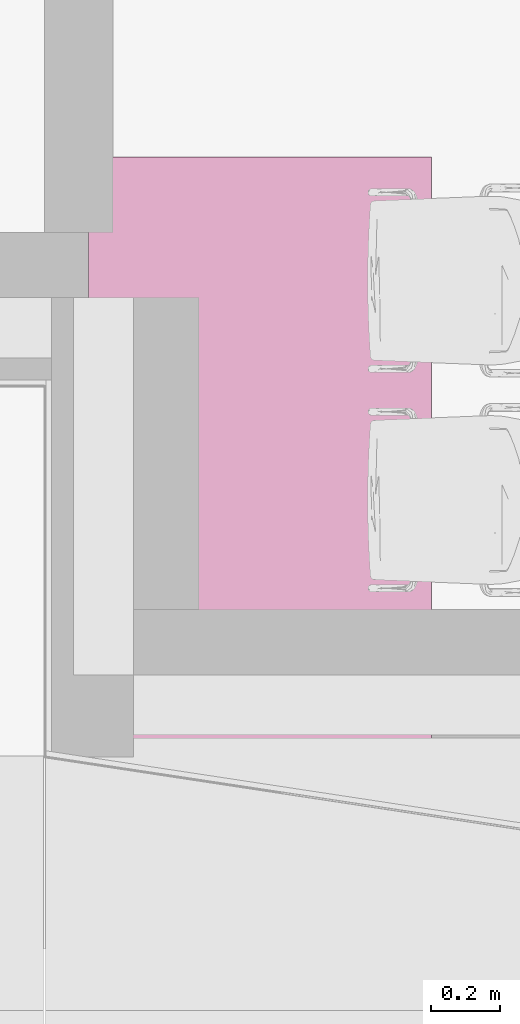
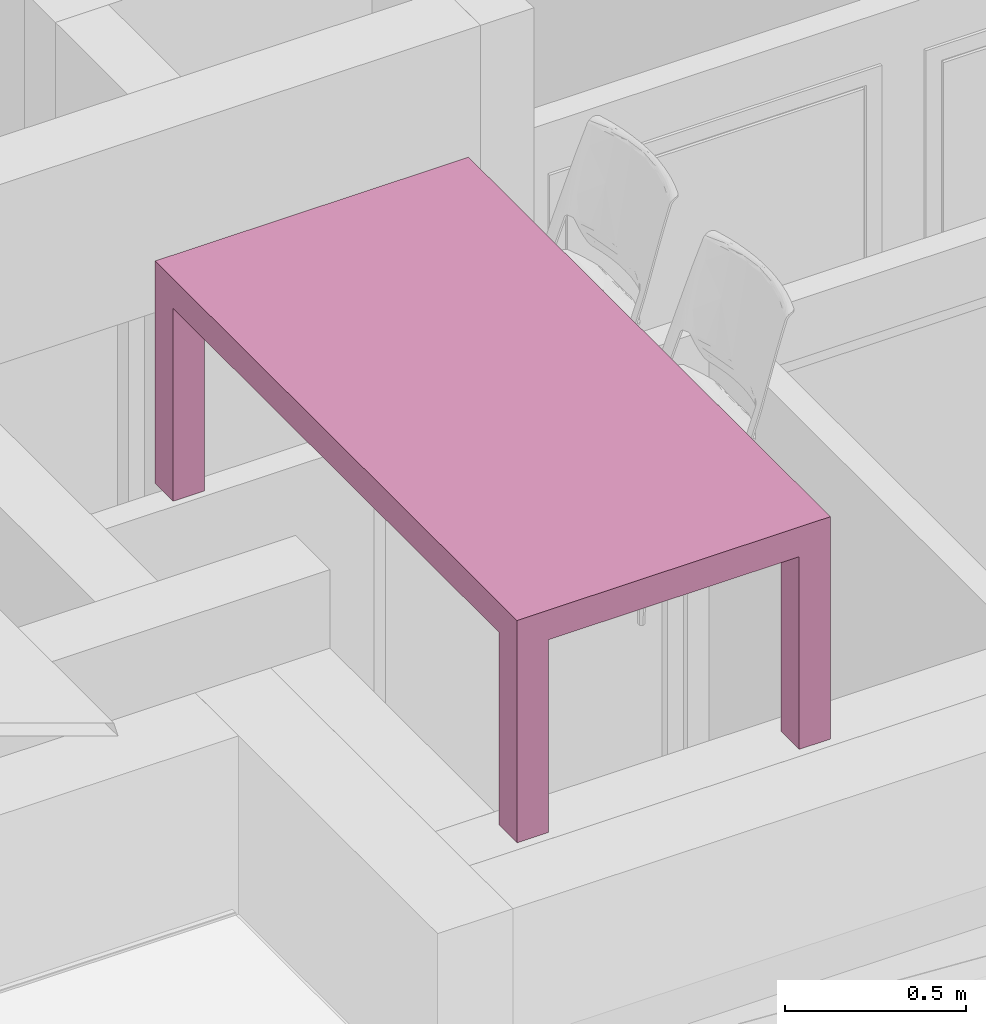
# One storey, part 15 of 55: 1 furnishing.
"""IFC2X3 building model written with IfcOpenShell, lengths in millimetres."""

from ifc_helpers import new_model, entity, si_unit, converted_unit, direction, frame, origin, place, context, subcontext, project, spatial, faceted_brep, source, transform, mapped, material, type_object, type_shapes, element, save


model = new_model("IFC2X3")

# Units and contexts
model_context = context("Model", 3, precision=0.01, world=origin(), true_north=direction((6.123233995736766e-17, 1.0)))
plan_context = context("Plan", 3, precision=0.01, world=origin(), true_north=direction((6.123233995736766e-17, 1.0)))
body_context = subcontext(model_context, "Body", "Model", "MODEL_VIEW")
ifc_project = project(units=[si_unit("LENGTHUNIT", "METRE", prefix="MILLI"), converted_unit("PLANEANGLEUNIT", "DEGREE", entity("IfcPlaneAngleMeasure", 0.017453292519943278), si_unit("PLANEANGLEUNIT", "RADIAN"), dimensions=[0, 0, 0, 0, 0, 0, 0]), si_unit("AREAUNIT", "SQUARE_METRE")], contexts=[model_context, plan_context])

# Site, building, storey, space
site_placement = place(None, origin())
site = spatial("IfcSite", under=ifc_project, at=site_placement, Name="Default", CompositionType="ELEMENT")
building_placement = place(site_placement, origin())
building = spatial("IfcBuilding", under=site, at=building_placement, CompositionType="ELEMENT")
storey_placement = place(building_placement, origin())
storey = spatial("IfcBuildingStorey", under=building, at=storey_placement, Name="1K", CompositionType="ELEMENT", Elevation=0.0)
space_placement = place(storey_placement, origin())
space = spatial("IfcSpace", under=storey, at=space_placement, Name="1-0.17", CompositionType="ELEMENT", InteriorOrExteriorSpace="INTERNAL")

# Furnishing
ifc_material = material(Name="<Unnamed>")
furniture_type = type_object("IfcFurnitureType", Name="HR_Furniture_Table_Generic_v2016-02-11:2000x1000", AssemblyPlace="NOTDEFINED", material=ifc_material)
shared_shape = source(origin(), body_context, "Body", "Brep", [
    faceted_brep([(-500.0, -900.0, 0.0), (-400.0, -900.0, 0.0), (-400.0, -1000.0, 0.0), (-500.0, -1000.0, 0.0), (-400.0, 1000.0, 0.0), (-500.0, 1000.0, 0.0), (-500.0, 1000.0, 750.0), (500.0, 1000.0, 750.0), (500.0, 1000.0, 0.0), (400.0, 1000.0, 0.0), (400.0, 1000.0, 650.0), (-400.0, 1000.0, 650.0), (-500.0, 900.0, 0.0), (-500.0, 900.0, 650.0), (-500.0, -900.0, 650.0), (-500.0, -1000.0, 750.0), (-400.0, 900.0, 0.0), (-400.0, 900.0, 650.0), (400.0, 900.0, 0.0), (400.0, 900.0, 650.0), (500.0, 900.0, 0.0), (500.0, 900.0, 650.0), (500.0, -1000.0, 750.0), (500.0, -1000.0, 0.0), (500.0, -900.0, 0.0), (500.0, -900.0, 650.0), (400.0, -900.0, 0.0), (400.0, -900.0, 650.0), (400.0, -1000.0, 0.0), (400.0, -1000.0, 650.0), (-400.0, -1000.0, 650.0), (-400.0, -900.0, 650.0)], [[[0, 1, 2, 3]], [[4, 5, 6, 7, 8, 9, 10, 11]], [[6, 5, 12, 13, 14, 0, 3, 15]], [[12, 16, 17, 13]], [[16, 4, 11, 17]], [[9, 18, 19, 10]], [[18, 20, 21, 19]], [[20, 8, 7, 22, 23, 24, 25, 21]], [[24, 26, 27, 25]], [[26, 28, 29, 27]], [[28, 23, 22, 15, 3, 2, 30, 29]], [[2, 1, 31, 30]], [[1, 0, 14, 31]], [[7, 6, 15, 22]], [[11, 10, 19, 21, 25, 27, 29, 30, 31, 14, 13, 17]], [[4, 16, 12, 5]], [[8, 20, 18, 9]], [[24, 23, 28, 26]]]),
])
type_shapes(furniture_type, [shared_shape])
furnishing_placement = place(space_placement, frame((7718.545584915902, 1120.0, 3125.0)))
element("IfcFurnishingElement", 1, at=furnishing_placement, inside=space, type_object=furniture_type, material=ifc_material, Name="HR_Furniture_Table_Generic_v2016-02-11:2000x1000", ObjectType="HR_Furniture_Table_Generic_v2016-02-11:2000x1000", context=body_context, shape_type="MappedRepresentation", body=[
    mapped(shared_shape, transform((0.0, 0.0, 0.0), scale=1.0)),
])

save(model, "model.ifc")
